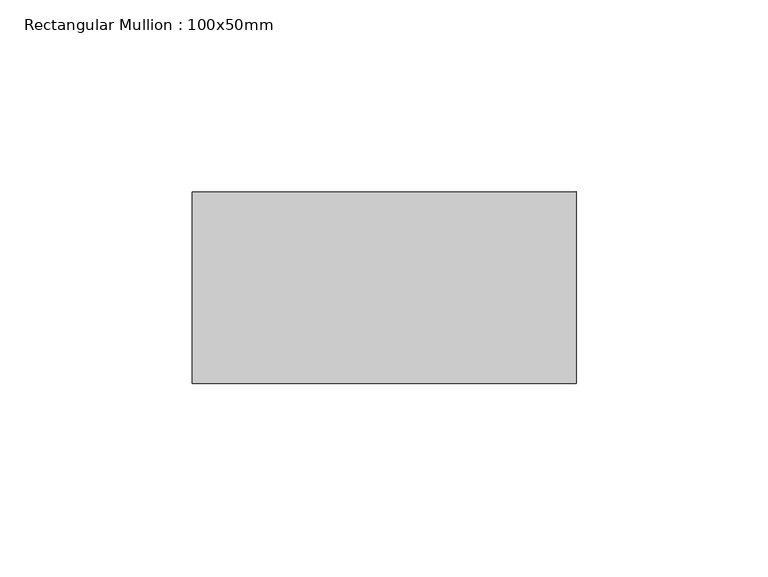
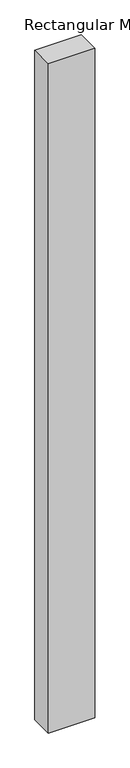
"""IFC4 building model written with IfcOpenShell, lengths in millimetres: member geometry, Rectangular Mullion : 100x50mm."""

from ifc_helpers import new_model, si_unit, frame, origin, place, context, project, spatial, polyline, outline, extrude, source, transform, mapped, element, save


def rectangular_mullion_100x50mm_7acafc11(model_context):
    return source(origin(), model_context, "Body", "SweptSolid", [
        extrude(outline(polyline([(0.0, 25.0), (0.0, -25.0), (-100.0, -25.0), (-100.0, 25.0), (0.0, 25.0)])), frame((0.0, 0.0, -1520.023805), z_axis=(0.0, 0.0, 1.0), x_axis=(1.0, 0.0, 0.0)), (0.0, 0.0, 1.0), 1520.023805),
    ])


if __name__ == "__main__":
    model = new_model("IFC4")
    model_context = context("Model", 3, world=origin())
    ifc_project = project(units=[si_unit("LENGTHUNIT", "METRE", prefix="MILLI")], contexts=[model_context])
    site = spatial("IfcSite", under=ifc_project)
    building = spatial("IfcBuilding", under=site)
    placement = place(None, origin())
    rectangular_mullion_100x50mm_shape = rectangular_mullion_100x50mm_7acafc11(model_context)
    element("IfcMember", 1, ObjectType="Rectangular Mullion : 100x50mm", at=placement, inside=building, context=model_context, shape_type="MappedRepresentation", body=[
        mapped(rectangular_mullion_100x50mm_shape, transform((0.0, 0.0, 0.0), x_axis=(1.0, 0.0, 0.0), y_axis=(0.0, 1.0, 0.0), z_axis=(0.0, 0.0, 1.0))),
    ])
    save(model, "model.ifc")
